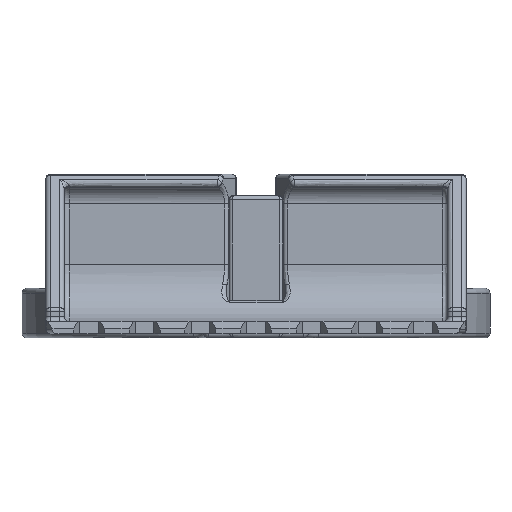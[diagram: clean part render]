
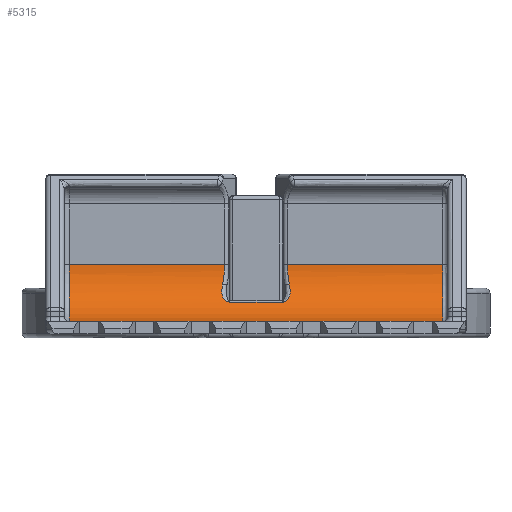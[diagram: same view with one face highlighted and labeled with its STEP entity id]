
A CAD part, front view. The second image highlights one B-rep face of the part: STEP entity #5315.
In plain terms, the highlighted cylindrical face has radius 6 mm (diameter 12 mm), a partial arc.
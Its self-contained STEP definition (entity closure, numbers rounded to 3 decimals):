
#233=LINE('',#8212,#595);
#327=LINE('',#8534,#689);
#328=LINE('',#8538,#690);
#329=LINE('',#8541,#691);
#595=VECTOR('',#6323,10.);
#689=VECTOR('',#6619,10.);
#690=VECTOR('',#6622,10.);
#691=VECTOR('',#6625,10.);
#979=CYLINDRICAL_SURFACE('',#5766,6.);
#1051=ELLIPSE('',#5653,6.824,6.);
#1056=ELLIPSE('',#5664,6.824,6.);
#1138=FACE_OUTER_BOUND('',#1500,.T.);
#1500=EDGE_LOOP('',(#3811,#3812,#3813,#3814,#3815,#3816,#3817,#3818,#3819,
#3820));
#1867=CIRCLE('',#5767,6.);
#1868=CIRCLE('',#5768,6.);
#2112=B_SPLINE_CURVE_WITH_KNOTS('',3,(#7976,#7977,#7978,#7979,#7980,#7981,
#7982,#7983,#7984,#7985,#7986),.UNSPECIFIED.,.F.,.F.,(4,1,1,1,1,1,1,1,4),
(-0.283,-0.263,-0.243,-0.223,
-0.202,-0.162,-0.081,-0.071,
0.),.UNSPECIFIED.);
#2115=B_SPLINE_CURVE_WITH_KNOTS('',3,(#8140,#8141,#8142,#8143,#8144,#8145,
#8146,#8147,#8148),.UNSPECIFIED.,.F.,.F.,(4,1,1,1,1,1,4),(-0.283,
-0.202,-0.121,-0.081,-0.04,
-0.02,0.),.UNSPECIFIED.);
#2240=VERTEX_POINT('',#7974);
#2241=VERTEX_POINT('',#7975);
#2249=VERTEX_POINT('',#8037);
#2252=VERTEX_POINT('',#8137);
#2253=VERTEX_POINT('',#8139);
#2258=VERTEX_POINT('',#8184);
#2354=VERTEX_POINT('',#8533);
#2355=VERTEX_POINT('',#8535);
#2356=VERTEX_POINT('',#8537);
#2357=VERTEX_POINT('',#8539);
#2711=EDGE_CURVE('',#2240,#2241,#2112,.T.);
#2722=EDGE_CURVE('',#2241,#2249,#1051,.T.);
#2726=EDGE_CURVE('',#2252,#2253,#2115,.T.);
#2736=EDGE_CURVE('',#2258,#2252,#1056,.T.);
#2737=EDGE_CURVE('',#2253,#2240,#233,.T.);
#2883=EDGE_CURVE('',#2258,#2354,#327,.T.);
#2884=EDGE_CURVE('',#2355,#2354,#1867,.T.);
#2885=EDGE_CURVE('',#2355,#2356,#328,.T.);
#2886=EDGE_CURVE('',#2357,#2356,#1868,.T.);
#2887=EDGE_CURVE('',#2357,#2249,#329,.T.);
#3811=ORIENTED_EDGE('',*,*,#2736,.F.);
#3812=ORIENTED_EDGE('',*,*,#2883,.T.);
#3813=ORIENTED_EDGE('',*,*,#2884,.F.);
#3814=ORIENTED_EDGE('',*,*,#2885,.T.);
#3815=ORIENTED_EDGE('',*,*,#2886,.F.);
#3816=ORIENTED_EDGE('',*,*,#2887,.T.);
#3817=ORIENTED_EDGE('',*,*,#2722,.F.);
#3818=ORIENTED_EDGE('',*,*,#2711,.F.);
#3819=ORIENTED_EDGE('',*,*,#2737,.F.);
#3820=ORIENTED_EDGE('',*,*,#2726,.F.);
#5315=ADVANCED_FACE('',(#1138),#979,.F.);
#5653=AXIS2_PLACEMENT_3D('',#8061,#6295,#6296);
#5664=AXIS2_PLACEMENT_3D('',#8210,#6319,#6320);
#5766=AXIS2_PLACEMENT_3D('',#8532,#6617,#6618);
#5767=AXIS2_PLACEMENT_3D('',#8536,#6620,#6621);
#5768=AXIS2_PLACEMENT_3D('',#8540,#6623,#6624);
#6295=DIRECTION('center_axis',(0.879,0.476,0.));
#6296=DIRECTION('ref_axis',(-0.476,0.879,0.));
#6319=DIRECTION('center_axis',(-0.879,0.476,0.));
#6320=DIRECTION('ref_axis',(0.476,0.879,0.));
#6323=DIRECTION('',(1.,0.,0.));
#6617=DIRECTION('center_axis',(-1.,0.,0.));
#6618=DIRECTION('ref_axis',(0.,0.707,-0.707));
#6619=DIRECTION('',(-1.,0.,0.));
#6620=DIRECTION('center_axis',(1.,0.,0.));
#6621=DIRECTION('ref_axis',(0.,0.707,-0.707));
#6622=DIRECTION('',(1.,0.,0.));
#6623=DIRECTION('center_axis',(-1.,0.,0.));
#6624=DIRECTION('ref_axis',(0.,0.,
-1.));
#6625=DIRECTION('',(-1.,0.,0.));
#7974=CARTESIAN_POINT('',(73.743,-193.643,3.336));
#7975=CARTESIAN_POINT('',(74.503,-192.508,5.252));
#7976=CARTESIAN_POINT('Ctrl Pts',(73.743,-193.643,3.336));
#7977=CARTESIAN_POINT('Ctrl Pts',(73.811,-193.643,3.336));
#7978=CARTESIAN_POINT('Ctrl Pts',(73.945,-193.628,3.353));
#7979=CARTESIAN_POINT('Ctrl Pts',(74.123,-193.567,3.424));
#7980=CARTESIAN_POINT('Ctrl Pts',(74.268,-193.482,3.526));
#7981=CARTESIAN_POINT('Ctrl Pts',(74.416,-193.352,3.69));
#7982=CARTESIAN_POINT('Ctrl Pts',(74.577,-193.109,4.025));
#7983=CARTESIAN_POINT('Ctrl Pts',(74.602,-192.9,4.377));
#7984=CARTESIAN_POINT('Ctrl Pts',(74.578,-192.678,4.822));
#7985=CARTESIAN_POINT('Ctrl Pts',(74.543,-192.581,5.05));
#7986=CARTESIAN_POINT('Ctrl Pts',(74.503,-192.508,5.252));
#8037=CARTESIAN_POINT('',(74.308,-192.147,7.3));
#8061=CARTESIAN_POINT('Origin',(77.558,-198.147,7.3));
#8137=CARTESIAN_POINT('',(67.508,-192.508,5.252));
#8139=CARTESIAN_POINT('',(68.268,-193.643,3.336));
#8140=CARTESIAN_POINT('Ctrl Pts',(67.508,-192.508,5.252));
#8141=CARTESIAN_POINT('Ctrl Pts',(67.462,-192.591,5.021));
#8142=CARTESIAN_POINT('Ctrl Pts',(67.396,-192.788,4.566));
#8143=CARTESIAN_POINT('Ctrl Pts',(67.435,-193.109,4.025));
#8144=CARTESIAN_POINT('Ctrl Pts',(67.617,-193.386,3.643));
#8145=CARTESIAN_POINT('Ctrl Pts',(67.828,-193.546,3.447));
#8146=CARTESIAN_POINT('Ctrl Pts',(68.066,-193.628,3.353));
#8147=CARTESIAN_POINT('Ctrl Pts',(68.201,-193.643,3.336));
#8148=CARTESIAN_POINT('Ctrl Pts',(68.268,-193.643,3.336));
#8184=CARTESIAN_POINT('',(67.703,-192.147,7.3));
#8210=CARTESIAN_POINT('Origin',(64.453,-198.147,7.3));
#8212=CARTESIAN_POINT('',(79.471,-193.643,3.336));
#8532=CARTESIAN_POINT('Origin',(79.471,-198.147,7.3));
#8533=CARTESIAN_POINT('',(51.356,-192.147,7.3));
#8534=CARTESIAN_POINT('',(79.471,-192.147,7.3));
#8535=CARTESIAN_POINT('',(51.356,-198.147,1.3));
#8536=CARTESIAN_POINT('Origin',(51.356,-198.147,7.3));
#8537=CARTESIAN_POINT('',(90.656,-198.147,1.3));
#8538=CARTESIAN_POINT('',(79.471,-198.147,1.3));
#8539=CARTESIAN_POINT('',(90.656,-192.147,7.3));
#8540=CARTESIAN_POINT('Origin',(90.656,-198.147,7.3));
#8541=CARTESIAN_POINT('',(79.471,-192.147,7.3));
